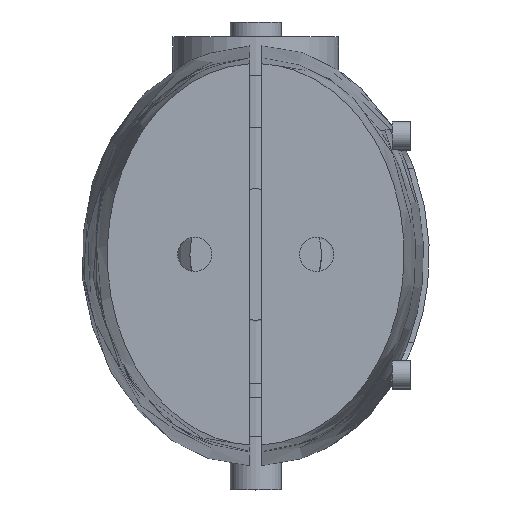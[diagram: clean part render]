
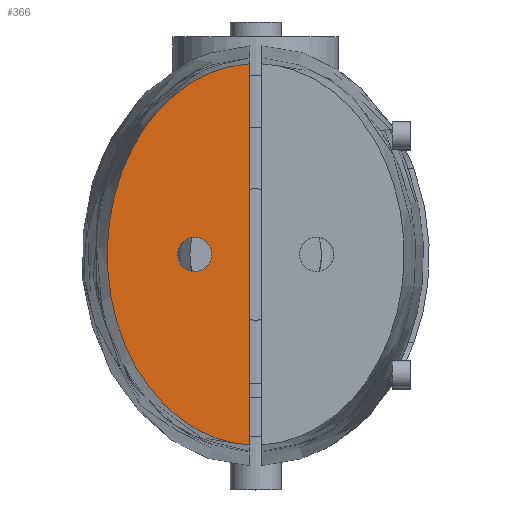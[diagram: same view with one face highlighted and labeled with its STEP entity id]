
A CAD part, top view. The second image highlights one B-rep face of the part: STEP entity #366.
In plain terms, the highlighted planar face has unit normal (0, 0, 1).
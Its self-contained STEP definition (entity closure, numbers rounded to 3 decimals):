
#86 = VERTEX_POINT('',#87);
#87 = CARTESIAN_POINT('',(-0.25,7.819,38.2));
#179 = VERTEX_POINT('',#180);
#180 = CARTESIAN_POINT('',(-0.25,-7.819,38.2));
#251 = EDGE_CURVE('',#86,#179,#252,.T.);
#252 = B_SPLINE_CURVE_WITH_KNOTS('',14,(#253,#254,#255,#256,#257,#258,
    #259,#260,#261,#262,#263,#264,#265,#266,#267),.UNSPECIFIED.,.T.,.F.,
  (15,15),(0.,1.),.PIECEWISE_BEZIER_KNOTS.);
#253 = CARTESIAN_POINT('',(0.,7.826,38.2));
#254 = CARTESIAN_POINT('',(-2.733,7.826,38.2));
#255 = CARTESIAN_POINT('',(-5.466,6.128,38.2));
#256 = CARTESIAN_POINT('',(-7.508,2.733,38.2));
#257 = CARTESIAN_POINT('',(-8.166,-1.852,38.2));
#258 = CARTESIAN_POINT('',(-6.997,-6.611,38.2));
#259 = CARTESIAN_POINT('',(-4.055,-10.245,38.2));
#260 = CARTESIAN_POINT('',(0.,-11.612,38.2));
#261 = CARTESIAN_POINT('',(4.055,-10.245,38.2));
#262 = CARTESIAN_POINT('',(6.997,-6.611,38.2));
#263 = CARTESIAN_POINT('',(8.166,-1.852,38.2));
#264 = CARTESIAN_POINT('',(7.508,2.733,38.2));
#265 = CARTESIAN_POINT('',(5.466,6.128,38.2));
#266 = CARTESIAN_POINT('',(2.733,7.826,38.2));
#267 = CARTESIAN_POINT('',(0.,7.826,38.2));
#355 = EDGE_CURVE('',#86,#179,#356,.T.);
#356 = LINE('',#357,#358);
#357 = CARTESIAN_POINT('',(-0.25,-13.587,38.2));
#358 = VECTOR('',#359,1.);
#359 = DIRECTION('',(0.,-1.,0.));
#366 = ADVANCED_FACE('',(#367,#371),#382,.F.);
#367 = FACE_BOUND('',#368,.F.);
#368 = EDGE_LOOP('',(#369,#370));
#369 = ORIENTED_EDGE('',*,*,#251,.F.);
#370 = ORIENTED_EDGE('',*,*,#355,.T.);
#371 = FACE_BOUND('',#372,.F.);
#372 = EDGE_LOOP('',(#373));
#373 = ORIENTED_EDGE('',*,*,#374,.T.);
#374 = EDGE_CURVE('',#375,#375,#377,.T.);
#375 = VERTEX_POINT('',#376);
#376 = CARTESIAN_POINT('',(-1.8,0.,38.2));
#377 = CIRCLE('',#378,0.7);
#378 = AXIS2_PLACEMENT_3D('',#379,#380,#381);
#379 = CARTESIAN_POINT('',(-2.5,0.,38.2));
#380 = DIRECTION('',(0.,0.,1.));
#381 = DIRECTION('',(1.,0.,-0.));
#382 = PLANE('',#383);
#383 = AXIS2_PLACEMENT_3D('',#384,#385,#386);
#384 = CARTESIAN_POINT('',(0.,7.826,38.2));
#385 = DIRECTION('',(0.,0.,-1.));
#386 = DIRECTION('',(0.,-1.,-0.));
